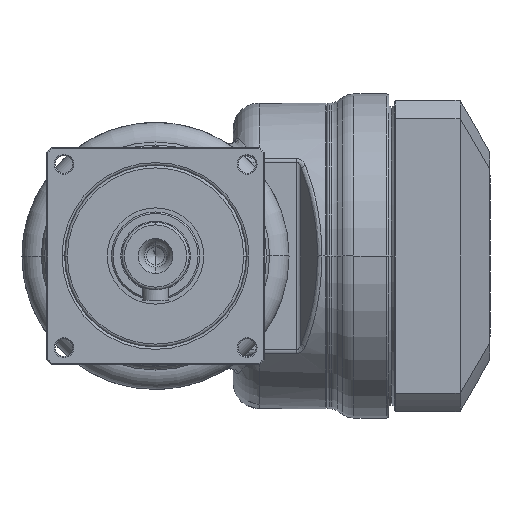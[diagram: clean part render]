
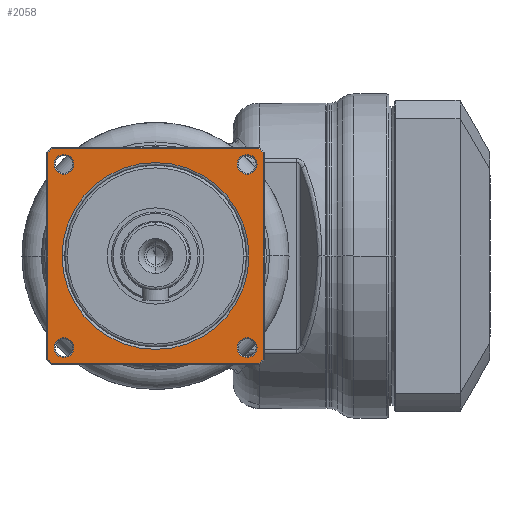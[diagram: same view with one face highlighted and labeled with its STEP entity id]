
A CAD part, left-side view. The second image highlights one B-rep face of the part: STEP entity #2058.
In plain terms, the highlighted planar face has unit normal (-1, 0, 0).
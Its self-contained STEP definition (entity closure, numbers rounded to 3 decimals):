
#399=CARTESIAN_POINT('',(5.5,0.,0.));
#400=DIRECTION('',(-1.,0.,0.));
#401=DIRECTION('',(0.,-1.,0.));
#402=AXIS2_PLACEMENT_3D('',#399,#400,#401);
#404=CARTESIAN_POINT('',(5.5,0.,0.));
#405=DIRECTION('',(-1.,0.,0.));
#406=DIRECTION('',(0.,1.,0.));
#407=AXIS2_PLACEMENT_3D('',#404,#405,#406);
#409=CARTESIAN_POINT('',(5.5,17.678,-17.678));
#410=DIRECTION('',(1.,0.,0.));
#411=DIRECTION('',(0.,-1.,0.));
#412=AXIS2_PLACEMENT_3D('',#409,#410,#411);
#414=CARTESIAN_POINT('',(5.5,17.678,-17.678));
#415=DIRECTION('',(1.,0.,0.));
#416=DIRECTION('',(0.,1.,0.));
#417=AXIS2_PLACEMENT_3D('',#414,#415,#416);
#419=CARTESIAN_POINT('',(5.5,17.678,17.678));
#420=DIRECTION('',(1.,0.,0.));
#421=DIRECTION('',(0.,0.,-1.));
#422=AXIS2_PLACEMENT_3D('',#419,#420,#421);
#424=CARTESIAN_POINT('',(5.5,17.678,17.678));
#425=DIRECTION('',(1.,0.,0.));
#426=DIRECTION('',(0.,0.,1.));
#427=AXIS2_PLACEMENT_3D('',#424,#425,#426);
#429=CARTESIAN_POINT('',(5.5,-17.678,17.678));
#430=DIRECTION('',(1.,0.,0.));
#431=DIRECTION('',(0.,1.,0.));
#432=AXIS2_PLACEMENT_3D('',#429,#430,#431);
#434=CARTESIAN_POINT('',(5.5,-17.678,17.678));
#435=DIRECTION('',(1.,0.,0.));
#436=DIRECTION('',(0.,-1.,0.));
#437=AXIS2_PLACEMENT_3D('',#434,#435,#436);
#439=CARTESIAN_POINT('',(5.5,-17.678,-17.678));
#440=DIRECTION('',(1.,0.,0.));
#441=DIRECTION('',(0.,0.,1.));
#442=AXIS2_PLACEMENT_3D('',#439,#440,#441);
#444=CARTESIAN_POINT('',(5.5,-17.678,-17.678));
#445=DIRECTION('',(1.,0.,0.));
#446=DIRECTION('',(0.,0.,-1.));
#447=AXIS2_PLACEMENT_3D('',#444,#445,#446);
#449=CARTESIAN_POINT('',(5.5,0.,0.));
#450=DIRECTION('',(-1.,0.,0.));
#451=DIRECTION('',(0.,0.722,-0.692));
#452=AXIS2_PLACEMENT_3D('',#449,#450,#451);
#454=DIRECTION('',(0.,0.,-1.));
#455=VECTOR('',#454,39.84);
#456=CARTESIAN_POINT('',(5.5,20.8,19.92));
#457=LINE('',#456,#455);
#458=CARTESIAN_POINT('',(5.5,0.,0.));
#459=DIRECTION('',(-1.,0.,0.));
#460=DIRECTION('',(0.,0.692,0.722));
#461=AXIS2_PLACEMENT_3D('',#458,#459,#460);
#463=DIRECTION('',(0.,1.,0.));
#464=VECTOR('',#463,39.84);
#465=CARTESIAN_POINT('',(5.5,-19.92,20.8));
#466=LINE('',#465,#464);
#467=CARTESIAN_POINT('',(5.5,0.,0.));
#468=DIRECTION('',(-1.,0.,0.));
#469=DIRECTION('',(0.,-0.722,0.692));
#470=AXIS2_PLACEMENT_3D('',#467,#468,#469);
#472=DIRECTION('',(0.,0.,1.));
#473=VECTOR('',#472,39.84);
#474=CARTESIAN_POINT('',(5.5,-20.8,-19.92));
#475=LINE('',#474,#473);
#476=CARTESIAN_POINT('',(5.5,0.,0.));
#477=DIRECTION('',(-1.,0.,0.));
#478=DIRECTION('',(0.,-0.692,-0.722));
#479=AXIS2_PLACEMENT_3D('',#476,#477,#478);
#481=DIRECTION('',(0.,-1.,0.));
#482=VECTOR('',#481,39.84);
#483=CARTESIAN_POINT('',(5.5,19.92,-20.8));
#484=LINE('',#483,#482);
#1241=CARTESIAN_POINT('',(5.5,15.778,-17.678));
#1242=CARTESIAN_POINT('',(5.5,19.578,-17.678));
#1243=VERTEX_POINT('',#1241);
#1244=VERTEX_POINT('',#1242);
#1257=CARTESIAN_POINT('',(5.5,17.678,15.778));
#1258=CARTESIAN_POINT('',(5.5,17.678,19.578));
#1259=VERTEX_POINT('',#1257);
#1260=VERTEX_POINT('',#1258);
#1273=CARTESIAN_POINT('',(5.5,-15.778,17.678));
#1274=CARTESIAN_POINT('',(5.5,-19.578,17.678));
#1275=VERTEX_POINT('',#1273);
#1276=VERTEX_POINT('',#1274);
#1289=CARTESIAN_POINT('',(5.5,-17.678,
-15.778));
#1290=CARTESIAN_POINT('',(5.5,-17.678,
-19.578));
#1291=VERTEX_POINT('',#1289);
#1292=VERTEX_POINT('',#1290);
#1409=CARTESIAN_POINT('',(5.5,20.8,-19.92));
#1410=CARTESIAN_POINT('',(5.5,19.92,-20.8));
#1411=VERTEX_POINT('',#1409);
#1412=VERTEX_POINT('',#1410);
#1413=CARTESIAN_POINT('',(5.5,-19.92,
-20.8));
#1414=VERTEX_POINT('',#1413);
#1419=CARTESIAN_POINT('',(5.5,-20.8,-19.92));
#1420=VERTEX_POINT('',#1419);
#1421=CARTESIAN_POINT('',(5.5,-20.8,19.92));
#1422=VERTEX_POINT('',#1421);
#1427=CARTESIAN_POINT('',(5.5,-19.92,20.8));
#1428=VERTEX_POINT('',#1427);
#1429=CARTESIAN_POINT('',(5.5,19.92,20.8));
#1430=VERTEX_POINT('',#1429);
#1435=CARTESIAN_POINT('',(5.5,20.8,19.92));
#1436=VERTEX_POINT('',#1435);
#1457=CARTESIAN_POINT('',(5.5,-18.018,0.));
#1458=CARTESIAN_POINT('',(5.5,18.018,0.));
#1459=VERTEX_POINT('',#1457);
#1460=VERTEX_POINT('',#1458);
#2006=CARTESIAN_POINT('',(5.5,0.,0.));
#2007=DIRECTION('',(1.,0.,0.));
#2008=DIRECTION('',(0.,-1.,0.));
#2009=AXIS2_PLACEMENT_3D('',#2006,#2007,#2008);
#2010=PLANE('',#2009);
#2012=ORIENTED_EDGE('',*,*,#2011,.F.);
#2014=ORIENTED_EDGE('',*,*,#2013,.F.);
#2016=ORIENTED_EDGE('',*,*,#2015,.F.);
#2018=ORIENTED_EDGE('',*,*,#2017,.F.);
#2020=ORIENTED_EDGE('',*,*,#2019,.F.);
#2022=ORIENTED_EDGE('',*,*,#2021,.F.);
#2024=ORIENTED_EDGE('',*,*,#2023,.F.);
#2026=ORIENTED_EDGE('',*,*,#2025,.F.);
#2027=EDGE_LOOP('',(#2012,#2014,#2016,#2018,#2020,#2022,#2024,#2026));
#2028=FACE_OUTER_BOUND('',#2027,.F.);
#2030=ORIENTED_EDGE('',*,*,#2029,.T.);
#2032=ORIENTED_EDGE('',*,*,#2031,.T.);
#2033=EDGE_LOOP('',(#2030,#2032));
#2034=FACE_BOUND('',#2033,.F.);
#2035=ORIENTED_EDGE('',*,*,#1996,.F.);
#2037=ORIENTED_EDGE('',*,*,#2036,.F.);
#2038=EDGE_LOOP('',(#2035,#2037));
#2039=FACE_BOUND('',#2038,.F.);
#2041=ORIENTED_EDGE('',*,*,#2040,.F.);
#2043=ORIENTED_EDGE('',*,*,#2042,.F.);
#2044=EDGE_LOOP('',(#2041,#2043));
#2045=FACE_BOUND('',#2044,.F.);
#2047=ORIENTED_EDGE('',*,*,#2046,.F.);
#2049=ORIENTED_EDGE('',*,*,#2048,.F.);
#2050=EDGE_LOOP('',(#2047,#2049));
#2051=FACE_BOUND('',#2050,.F.);
#2053=ORIENTED_EDGE('',*,*,#2052,.F.);
#2055=ORIENTED_EDGE('',*,*,#2054,.F.);
#2056=EDGE_LOOP('',(#2053,#2055));
#2057=FACE_BOUND('',#2056,.F.);
#2058=ADVANCED_FACE('',(#2028,#2034,#2039,#2045,#2051,#2057),#2010,.F.);
#403=CIRCLE('',#402,18.018);
#408=CIRCLE('',#407,18.018);
#413=CIRCLE('',#412,1.9);
#418=CIRCLE('',#417,1.9);
#423=CIRCLE('',#422,1.9);
#428=CIRCLE('',#427,1.9);
#433=CIRCLE('',#432,1.9);
#438=CIRCLE('',#437,1.9);
#443=CIRCLE('',#442,1.9);
#448=CIRCLE('',#447,1.9);
#453=CIRCLE('',#452,28.8);
#462=CIRCLE('',#461,28.8);
#471=CIRCLE('',#470,28.8);
#480=CIRCLE('',#479,28.8);
#1996=EDGE_CURVE('',#1243,#1244,#413,.T.);
#2011=EDGE_CURVE('',#1411,#1412,#453,.T.);
#2013=EDGE_CURVE('',#1436,#1411,#457,.T.);
#2015=EDGE_CURVE('',#1430,#1436,#462,.T.);
#2017=EDGE_CURVE('',#1428,#1430,#466,.T.);
#2019=EDGE_CURVE('',#1422,#1428,#471,.T.);
#2021=EDGE_CURVE('',#1420,#1422,#475,.T.);
#2023=EDGE_CURVE('',#1414,#1420,#480,.T.);
#2025=EDGE_CURVE('',#1412,#1414,#484,.T.);
#2029=EDGE_CURVE('',#1459,#1460,#403,.T.);
#2031=EDGE_CURVE('',#1460,#1459,#408,.T.);
#2036=EDGE_CURVE('',#1244,#1243,#418,.T.);
#2040=EDGE_CURVE('',#1259,#1260,#423,.T.);
#2042=EDGE_CURVE('',#1260,#1259,#428,.T.);
#2046=EDGE_CURVE('',#1275,#1276,#433,.T.);
#2048=EDGE_CURVE('',#1276,#1275,#438,.T.);
#2052=EDGE_CURVE('',#1291,#1292,#443,.T.);
#2054=EDGE_CURVE('',#1292,#1291,#448,.T.);
